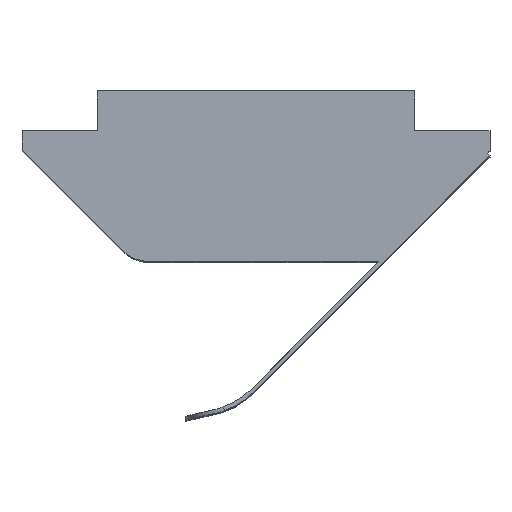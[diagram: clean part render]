
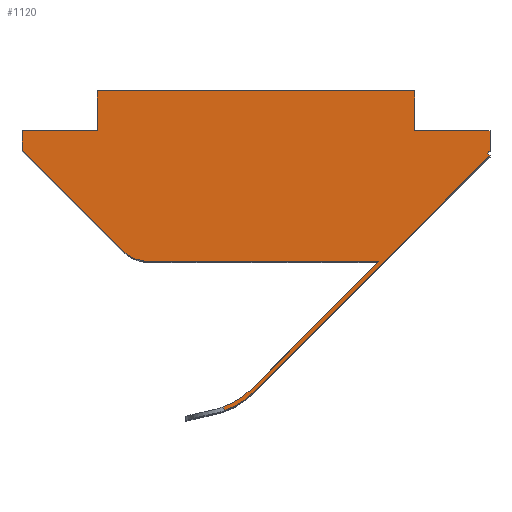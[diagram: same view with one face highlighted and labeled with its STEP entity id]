
A CAD part, top view. The second image highlights one B-rep face of the part: STEP entity #1120.
In plain terms, the highlighted planar face has unit normal (0, 0, 1).
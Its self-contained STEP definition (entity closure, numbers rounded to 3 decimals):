
#123=CARTESIAN_POINT('',(3.1,0.0,16.0));
#124=VERTEX_POINT('',#123);
#131=CARTESIAN_POINT('',(-2.686,0.0,16.0));
#132=VERTEX_POINT('',#131);
#133=CARTESIAN_POINT('',(3.1,0.0,16.0));
#134=DIRECTION('',(-1.0,0.0,0.0));
#135=VECTOR('',#134,5.786);
#136=LINE('',#133,#135);
#137=EDGE_CURVE('',#124,#132,#136,.T.);
#312=CARTESIAN_POINT('',(-4.,4.3,16.0));
#313=VERTEX_POINT('',#312);
#314=CARTESIAN_POINT('',(4.,4.3,16.0));
#315=VERTEX_POINT('',#314);
#316=CARTESIAN_POINT('',(-4.,4.3,16.0));
#317=DIRECTION('',(1.0,0.0,0.0));
#318=VECTOR('',#317,8.);
#319=LINE('',#316,#318);
#320=EDGE_CURVE('',#313,#315,#319,.T.);
#629=CARTESIAN_POINT('',(-0.795,-3.763,16.0));
#630=VERTEX_POINT('',#629);
#638=CARTESIAN_POINT('',(-0.817,-3.665,16.0));
#639=VERTEX_POINT('',#638);
#640=CARTESIAN_POINT('',(-0.795,-3.763,16.0));
#641=DIRECTION('',(-0.224,0.975,0.0));
#642=VECTOR('',#641,0.101);
#643=LINE('',#640,#642);
#644=EDGE_CURVE('',#630,#639,#643,.T.);
#686=CARTESIAN_POINT('',(-0.052,-3.293,16.0));
#687=VERTEX_POINT('',#686);
#694=CARTESIAN_POINT('',(-1.466,-1.879,16.0));
#695=DIRECTION('',(0.0,0.0,-1.));
#696=DIRECTION('',(0.484,-0.875,0.0));
#697=AXIS2_PLACEMENT_3D('',#694,#695,#696);
#698=CIRCLE('',#697,2.);
#699=EDGE_CURVE('',#687,#630,#698,.T.);
#878=CARTESIAN_POINT('',(5.9,2.659,16.0));
#879=VERTEX_POINT('',#878);
#886=CARTESIAN_POINT('',(5.9,2.659,16.0));
#887=DIRECTION('',(-0.707,-0.707,0.0));
#888=VECTOR('',#887,8.417);
#889=LINE('',#886,#888);
#890=EDGE_CURVE('',#879,#687,#889,.T.);
#940=CARTESIAN_POINT('',(-0.123,-3.223,16.0));
#941=VERTEX_POINT('',#940);
#948=CARTESIAN_POINT('',(-0.123,-3.223,16.0));
#949=DIRECTION('',(0.707,0.707,0.0));
#950=VECTOR('',#949,4.558);
#951=LINE('',#948,#950);
#952=EDGE_CURVE('',#941,#124,#951,.T.);
#988=CARTESIAN_POINT('',(-1.466,-1.879,16.0));
#989=DIRECTION('',(0.0,0.0,1.0));
#990=DIRECTION('',(0.484,-0.875,0.0));
#991=AXIS2_PLACEMENT_3D('',#988,#989,#990);
#992=CIRCLE('',#991,1.9);
#993=EDGE_CURVE('',#639,#941,#992,.T.);
#1007=CARTESIAN_POINT('',(-3.393,0.293,16.0));
#1008=VERTEX_POINT('',#1007);
#1009=CARTESIAN_POINT('',(-2.686,1.0,16.0));
#1010=DIRECTION('',(0.0,0.0,-1.));
#1011=DIRECTION('',(-0.383,-0.924,0.0));
#1012=AXIS2_PLACEMENT_3D('',#1009,#1010,#1011);
#1013=CIRCLE('',#1012,1.0);
#1014=EDGE_CURVE('',#132,#1008,#1013,.T.);
#1037=CARTESIAN_POINT('',(0.0,2.375,16.0));
#1038=DIRECTION('',(0.0,0.0,1.0));
#1039=DIRECTION('',(1.0,0.0,0.0));
#1040=AXIS2_PLACEMENT_3D('',#1037,#1038,#1039);
#1041=PLANE('',#1040);
#1042=ORIENTED_EDGE('',*,*,#644,.F.);
#1043=ORIENTED_EDGE('',*,*,#699,.F.);
#1044=ORIENTED_EDGE('',*,*,#890,.F.);
#1045=CARTESIAN_POINT('',(5.829,2.729,16.0));
#1046=VERTEX_POINT('',#1045);
#1047=CARTESIAN_POINT('',(5.829,2.729,16.0));
#1048=DIRECTION('',(0.707,-0.707,0.0));
#1049=VECTOR('',#1048,0.1);
#1050=LINE('',#1047,#1049);
#1051=EDGE_CURVE('',#1046,#879,#1050,.T.);
#1052=ORIENTED_EDGE('',*,*,#1051,.F.);
#1053=CARTESIAN_POINT('',(5.9,2.8,16.0));
#1054=VERTEX_POINT('',#1053);
#1055=CARTESIAN_POINT('',(5.9,2.8,16.0));
#1056=DIRECTION('',(-0.707,-0.707,0.0));
#1057=VECTOR('',#1056,0.1);
#1058=LINE('',#1055,#1057);
#1059=EDGE_CURVE('',#1054,#1046,#1058,.T.);
#1060=ORIENTED_EDGE('',*,*,#1059,.F.);
#1061=CARTESIAN_POINT('',(5.9,3.3,16.0));
#1062=VERTEX_POINT('',#1061);
#1063=CARTESIAN_POINT('',(5.9,3.3,16.0));
#1064=DIRECTION('',(0.0,-1.0,0.0));
#1065=VECTOR('',#1064,0.5);
#1066=LINE('',#1063,#1065);
#1067=EDGE_CURVE('',#1062,#1054,#1066,.T.);
#1068=ORIENTED_EDGE('',*,*,#1067,.F.);
#1069=CARTESIAN_POINT('',(4.,3.3,16.0));
#1070=VERTEX_POINT('',#1069);
#1071=CARTESIAN_POINT('',(4.,3.3,16.0));
#1072=DIRECTION('',(1.0,0.0,0.0));
#1073=VECTOR('',#1072,1.9);
#1074=LINE('',#1071,#1073);
#1075=EDGE_CURVE('',#1070,#1062,#1074,.T.);
#1076=ORIENTED_EDGE('',*,*,#1075,.F.);
#1077=CARTESIAN_POINT('',(4.,4.3,16.0));
#1078=DIRECTION('',(0.0,-1.0,0.0));
#1079=VECTOR('',#1078,1.);
#1080=LINE('',#1077,#1079);
#1081=EDGE_CURVE('',#315,#1070,#1080,.T.);
#1082=ORIENTED_EDGE('',*,*,#1081,.F.);
#1083=ORIENTED_EDGE('',*,*,#320,.F.);
#1084=CARTESIAN_POINT('',(-4.,3.3,16.0));
#1085=VERTEX_POINT('',#1084);
#1086=CARTESIAN_POINT('',(-4.,3.3,16.0));
#1087=DIRECTION('',(0.0,1.0,0.0));
#1088=VECTOR('',#1087,1.);
#1089=LINE('',#1086,#1088);
#1090=EDGE_CURVE('',#1085,#313,#1089,.T.);
#1091=ORIENTED_EDGE('',*,*,#1090,.F.);
#1092=CARTESIAN_POINT('',(-5.9,3.3,16.0));
#1093=VERTEX_POINT('',#1092);
#1094=CARTESIAN_POINT('',(-5.9,3.3,16.0));
#1095=DIRECTION('',(1.0,0.0,0.0));
#1096=VECTOR('',#1095,1.9);
#1097=LINE('',#1094,#1096);
#1098=EDGE_CURVE('',#1093,#1085,#1097,.T.);
#1099=ORIENTED_EDGE('',*,*,#1098,.F.);
#1100=CARTESIAN_POINT('',(-5.9,2.8,16.0));
#1101=VERTEX_POINT('',#1100);
#1102=CARTESIAN_POINT('',(-5.9,2.8,16.0));
#1103=DIRECTION('',(0.0,1.0,0.0));
#1104=VECTOR('',#1103,0.5);
#1105=LINE('',#1102,#1104);
#1106=EDGE_CURVE('',#1101,#1093,#1105,.T.);
#1107=ORIENTED_EDGE('',*,*,#1106,.F.);
#1108=CARTESIAN_POINT('',(-3.393,0.293,16.0));
#1109=DIRECTION('',(-0.707,0.707,0.0));
#1110=VECTOR('',#1109,3.546);
#1111=LINE('',#1108,#1110);
#1112=EDGE_CURVE('',#1008,#1101,#1111,.T.);
#1113=ORIENTED_EDGE('',*,*,#1112,.F.);
#1114=ORIENTED_EDGE('',*,*,#1014,.F.);
#1115=ORIENTED_EDGE('',*,*,#137,.F.);
#1116=ORIENTED_EDGE('',*,*,#952,.F.);
#1117=ORIENTED_EDGE('',*,*,#993,.F.);
#1118=EDGE_LOOP('',(#1042,#1043,#1044,#1052,#1060,#1068,#1076,#1082,#1083,#1091,#1099,#1107,#1113,#1114,#1115,#1116,#1117));
#1119=FACE_OUTER_BOUND('',#1118,.T.);
#1120=ADVANCED_FACE('',(#1119),#1041,.T.);
